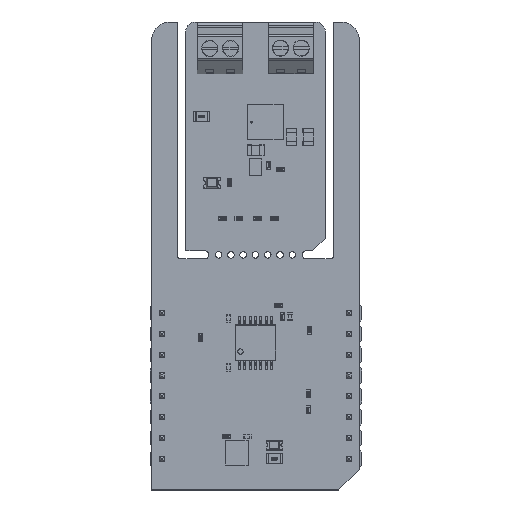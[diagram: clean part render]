
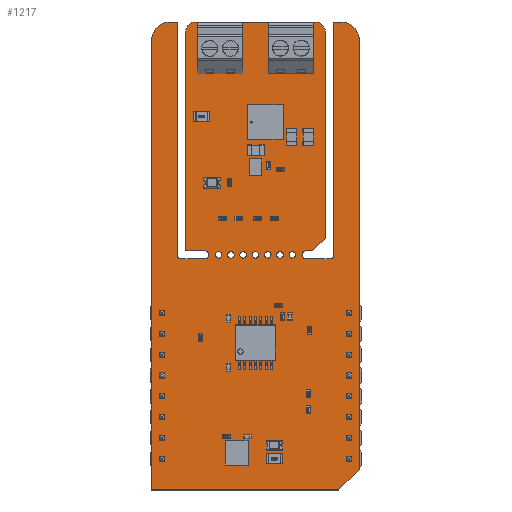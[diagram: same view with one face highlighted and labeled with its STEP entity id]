
A CAD part, top view. The second image highlights one B-rep face of the part: STEP entity #1217.
In plain terms, the highlighted planar face has unit normal (0, 0, 1).
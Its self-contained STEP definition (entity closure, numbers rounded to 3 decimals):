
#180 = VERTEX_POINT('',#181);
#181 = CARTESIAN_POINT('',(1.905,24.8,1.59));
#187 = EDGE_CURVE('',#180,#188,#190,.T.);
#188 = VERTEX_POINT('',#189);
#189 = CARTESIAN_POINT('',(2.305,24.4,1.59));
#190 = CIRCLE('',#191,0.399);
#191 = AXIS2_PLACEMENT_3D('',#192,#193,#194);
#192 = CARTESIAN_POINT('',(2.304,24.799,1.59));
#193 = DIRECTION('',(0.,0.,1.));
#194 = DIRECTION('',(-1.,0.001,0.));
#220 = EDGE_CURVE('',#188,#221,#223,.T.);
#221 = VERTEX_POINT('',#222);
#222 = CARTESIAN_POINT('',(5.23,24.4,1.59));
#223 = LINE('',#224,#225);
#224 = CARTESIAN_POINT('',(2.305,24.4,1.59));
#225 = VECTOR('',#226,1.);
#226 = DIRECTION('',(1.,0.,0.));
#251 = EDGE_CURVE('',#221,#252,#254,.T.);
#252 = VERTEX_POINT('',#253);
#253 = CARTESIAN_POINT('',(5.23,25.4,1.59));
#254 = CIRCLE('',#255,0.5);
#255 = AXIS2_PLACEMENT_3D('',#256,#257,#258);
#256 = CARTESIAN_POINT('',(5.23,24.9,1.59));
#257 = DIRECTION('',(0.,0.,1.));
#258 = DIRECTION('',(-0.,-1.,0.));
#284 = EDGE_CURVE('',#252,#285,#287,.T.);
#285 = VERTEX_POINT('',#286);
#286 = CARTESIAN_POINT('',(2.921,25.4,1.59));
#287 = LINE('',#288,#289);
#288 = CARTESIAN_POINT('',(5.23,25.4,1.59));
#289 = VECTOR('',#290,1.);
#290 = DIRECTION('',(-1.,0.,0.));
#315 = EDGE_CURVE('',#285,#316,#318,.T.);
#316 = VERTEX_POINT('',#317);
#317 = CARTESIAN_POINT('',(2.921,52.197,1.59));
#318 = LINE('',#319,#320);
#319 = CARTESIAN_POINT('',(2.921,25.4,1.59));
#320 = VECTOR('',#321,1.);
#321 = DIRECTION('',(0.,1.,0.));
#346 = EDGE_CURVE('',#316,#347,#349,.T.);
#347 = VERTEX_POINT('',#348);
#348 = CARTESIAN_POINT('',(4.064,53.34,1.59));
#349 = CIRCLE('',#350,1.144);
#350 = AXIS2_PLACEMENT_3D('',#351,#352,#353);
#351 = CARTESIAN_POINT('',(4.065,52.196,1.59));
#352 = DIRECTION('',(0.,0.,-1.));
#353 = DIRECTION('',(-1.,0.001,0.));
#379 = EDGE_CURVE('',#347,#380,#382,.T.);
#380 = VERTEX_POINT('',#381);
#381 = CARTESIAN_POINT('',(18.796,53.34,1.59));
#382 = LINE('',#383,#384);
#383 = CARTESIAN_POINT('',(4.064,53.34,1.59));
#384 = VECTOR('',#385,1.);
#385 = DIRECTION('',(1.,0.,0.));
#410 = EDGE_CURVE('',#380,#411,#413,.T.);
#411 = VERTEX_POINT('',#412);
#412 = CARTESIAN_POINT('',(19.939,52.197,1.59));
#413 = CIRCLE('',#414,1.144);
#414 = AXIS2_PLACEMENT_3D('',#415,#416,#417);
#415 = CARTESIAN_POINT('',(18.795,52.196,1.59));
#416 = DIRECTION('',(0.,0.,-1.));
#417 = DIRECTION('',(0.001,1.,0.));
#443 = EDGE_CURVE('',#411,#444,#446,.T.);
#444 = VERTEX_POINT('',#445);
#445 = CARTESIAN_POINT('',(19.939,26.924,1.59));
#446 = LINE('',#447,#448);
#447 = CARTESIAN_POINT('',(19.939,52.197,1.59));
#448 = VECTOR('',#449,1.);
#449 = DIRECTION('',(0.,-1.,0.));
#474 = EDGE_CURVE('',#444,#475,#477,.T.);
#475 = VERTEX_POINT('',#476);
#476 = CARTESIAN_POINT('',(18.415,25.4,1.59));
#477 = LINE('',#478,#479);
#478 = CARTESIAN_POINT('',(19.939,26.924,1.59));
#479 = VECTOR('',#480,1.);
#480 = DIRECTION('',(-0.707,-0.707,0.));
#505 = EDGE_CURVE('',#475,#506,#508,.T.);
#506 = VERTEX_POINT('',#507);
#507 = CARTESIAN_POINT('',(17.63,25.4,1.59));
#508 = LINE('',#509,#510);
#509 = CARTESIAN_POINT('',(18.415,25.4,1.59));
#510 = VECTOR('',#511,1.);
#511 = DIRECTION('',(-1.,0.,0.));
#536 = EDGE_CURVE('',#506,#537,#539,.T.);
#537 = VERTEX_POINT('',#538);
#538 = CARTESIAN_POINT('',(17.63,24.4,1.59));
#539 = CIRCLE('',#540,0.5);
#540 = AXIS2_PLACEMENT_3D('',#541,#542,#543);
#541 = CARTESIAN_POINT('',(17.63,24.9,1.59));
#542 = DIRECTION('',(0.,-0.,1.));
#543 = DIRECTION('',(0.,1.,0.));
#569 = EDGE_CURVE('',#537,#570,#572,.T.);
#570 = VERTEX_POINT('',#571);
#571 = CARTESIAN_POINT('',(20.555,24.4,1.59));
#572 = LINE('',#573,#574);
#573 = CARTESIAN_POINT('',(17.63,24.4,1.59));
#574 = VECTOR('',#575,1.);
#575 = DIRECTION('',(1.,0.,0.));
#600 = EDGE_CURVE('',#570,#601,#603,.T.);
#601 = VERTEX_POINT('',#602);
#602 = CARTESIAN_POINT('',(20.955,24.8,1.59));
#603 = CIRCLE('',#604,0.399);
#604 = AXIS2_PLACEMENT_3D('',#605,#606,#607);
#605 = CARTESIAN_POINT('',(20.556,24.799,1.59));
#606 = DIRECTION('',(0.,0.,1.));
#607 = DIRECTION('',(-0.001,-1.,0.));
#633 = EDGE_CURVE('',#601,#634,#636,.T.);
#634 = VERTEX_POINT('',#635);
#635 = CARTESIAN_POINT('',(20.955,53.34,1.59));
#636 = LINE('',#637,#638);
#637 = CARTESIAN_POINT('',(20.955,24.8,1.59));
#638 = VECTOR('',#639,1.);
#639 = DIRECTION('',(0.,1.,0.));
#664 = EDGE_CURVE('',#634,#665,#667,.T.);
#665 = VERTEX_POINT('',#666);
#666 = CARTESIAN_POINT('',(21.844,53.34,1.59));
#667 = LINE('',#668,#669);
#668 = CARTESIAN_POINT('',(20.955,53.34,1.59));
#669 = VECTOR('',#670,1.);
#670 = DIRECTION('',(1.,0.,0.));
#695 = EDGE_CURVE('',#665,#696,#698,.T.);
#696 = VERTEX_POINT('',#697);
#697 = CARTESIAN_POINT('',(24.13,51.054,1.59));
#698 = CIRCLE('',#699,2.288);
#699 = AXIS2_PLACEMENT_3D('',#700,#701,#702);
#700 = CARTESIAN_POINT('',(21.842,51.052,1.59));
#701 = DIRECTION('',(0.,0.,-1.));
#702 = DIRECTION('',(0.001,1.,0.));
#728 = EDGE_CURVE('',#696,#729,#731,.T.);
#729 = VERTEX_POINT('',#730);
#730 = CARTESIAN_POINT('',(24.13,-1.27,1.59));
#731 = LINE('',#732,#733);
#732 = CARTESIAN_POINT('',(24.13,51.054,1.59));
#733 = VECTOR('',#734,1.);
#734 = DIRECTION('',(0.,-1.,0.));
#759 = EDGE_CURVE('',#729,#760,#762,.T.);
#760 = VERTEX_POINT('',#761);
#761 = CARTESIAN_POINT('',(21.59,-3.81,1.59));
#762 = LINE('',#763,#764);
#763 = CARTESIAN_POINT('',(24.13,-1.27,1.59));
#764 = VECTOR('',#765,1.);
#765 = DIRECTION('',(-0.707,-0.707,0.));
#790 = EDGE_CURVE('',#760,#791,#793,.T.);
#791 = VERTEX_POINT('',#792);
#792 = CARTESIAN_POINT('',(-1.27,-3.81,1.59));
#793 = LINE('',#794,#795);
#794 = CARTESIAN_POINT('',(21.59,-3.81,1.59));
#795 = VECTOR('',#796,1.);
#796 = DIRECTION('',(-1.,0.,0.));
#821 = EDGE_CURVE('',#791,#822,#824,.T.);
#822 = VERTEX_POINT('',#823);
#823 = CARTESIAN_POINT('',(-1.27,51.054,1.59));
#824 = LINE('',#825,#826);
#825 = CARTESIAN_POINT('',(-1.27,-3.81,1.59));
#826 = VECTOR('',#827,1.);
#827 = DIRECTION('',(0.,1.,0.));
#852 = EDGE_CURVE('',#822,#853,#855,.T.);
#853 = VERTEX_POINT('',#854);
#854 = CARTESIAN_POINT('',(1.016,53.34,1.59));
#855 = CIRCLE('',#856,2.288);
#856 = AXIS2_PLACEMENT_3D('',#857,#858,#859);
#857 = CARTESIAN_POINT('',(1.018,51.052,1.59));
#858 = DIRECTION('',(0.,0.,-1.));
#859 = DIRECTION('',(-1.,0.001,0.));
#885 = EDGE_CURVE('',#853,#886,#888,.T.);
#886 = VERTEX_POINT('',#887);
#887 = CARTESIAN_POINT('',(1.905,53.34,1.59));
#888 = LINE('',#889,#890);
#889 = CARTESIAN_POINT('',(1.016,53.34,1.59));
#890 = VECTOR('',#891,1.);
#891 = DIRECTION('',(1.,0.,0.));
#916 = EDGE_CURVE('',#886,#180,#917,.T.);
#917 = LINE('',#918,#919);
#918 = CARTESIAN_POINT('',(1.905,53.34,1.59));
#919 = VECTOR('',#920,1.);
#920 = DIRECTION('',(0.,-1.,0.));
#940 = VERTEX_POINT('',#941);
#941 = CARTESIAN_POINT('',(7.33,24.9,1.59));
#947 = EDGE_CURVE('',#940,#940,#948,.T.);
#948 = CIRCLE('',#949,0.4);
#949 = AXIS2_PLACEMENT_3D('',#950,#951,#952);
#950 = CARTESIAN_POINT('',(6.93,24.9,1.59));
#951 = DIRECTION('',(0.,0.,1.));
#952 = DIRECTION('',(1.,0.,-0.));
#973 = VERTEX_POINT('',#974);
#974 = CARTESIAN_POINT('',(8.83,24.9,1.59));
#980 = EDGE_CURVE('',#973,#973,#981,.T.);
#981 = CIRCLE('',#982,0.4);
#982 = AXIS2_PLACEMENT_3D('',#983,#984,#985);
#983 = CARTESIAN_POINT('',(8.43,24.9,1.59));
#984 = DIRECTION('',(0.,0.,1.));
#985 = DIRECTION('',(1.,0.,-0.));
#1006 = VERTEX_POINT('',#1007);
#1007 = CARTESIAN_POINT('',(10.33,24.9,1.59));
#1013 = EDGE_CURVE('',#1006,#1006,#1014,.T.);
#1014 = CIRCLE('',#1015,0.4);
#1015 = AXIS2_PLACEMENT_3D('',#1016,#1017,#1018);
#1016 = CARTESIAN_POINT('',(9.93,24.9,1.59));
#1017 = DIRECTION('',(0.,0.,1.));
#1018 = DIRECTION('',(1.,0.,-0.));
#1039 = VERTEX_POINT('',#1040);
#1040 = CARTESIAN_POINT('',(14.83,24.9,1.59));
#1046 = EDGE_CURVE('',#1039,#1039,#1047,.T.);
#1047 = CIRCLE('',#1048,0.4);
#1048 = AXIS2_PLACEMENT_3D('',#1049,#1050,#1051);
#1049 = CARTESIAN_POINT('',(14.43,24.9,1.59));
#1050 = DIRECTION('',(0.,0.,1.));
#1051 = DIRECTION('',(1.,0.,-0.));
#1072 = VERTEX_POINT('',#1073);
#1073 = CARTESIAN_POINT('',(16.33,24.9,1.59));
#1079 = EDGE_CURVE('',#1072,#1072,#1080,.T.);
#1080 = CIRCLE('',#1081,0.4);
#1081 = AXIS2_PLACEMENT_3D('',#1082,#1083,#1084);
#1082 = CARTESIAN_POINT('',(15.93,24.9,1.59));
#1083 = DIRECTION('',(0.,0.,1.));
#1084 = DIRECTION('',(1.,0.,-0.));
#1105 = VERTEX_POINT('',#1106);
#1106 = CARTESIAN_POINT('',(11.83,24.9,1.59));
#1112 = EDGE_CURVE('',#1105,#1105,#1113,.T.);
#1113 = CIRCLE('',#1114,0.4);
#1114 = AXIS2_PLACEMENT_3D('',#1115,#1116,#1117);
#1115 = CARTESIAN_POINT('',(11.43,24.9,1.59));
#1116 = DIRECTION('',(0.,0.,1.));
#1117 = DIRECTION('',(1.,0.,-0.));
#1138 = VERTEX_POINT('',#1139);
#1139 = CARTESIAN_POINT('',(13.33,24.9,1.59));
#1145 = EDGE_CURVE('',#1138,#1138,#1146,.T.);
#1146 = CIRCLE('',#1147,0.4);
#1147 = AXIS2_PLACEMENT_3D('',#1148,#1149,#1150);
#1148 = CARTESIAN_POINT('',(12.93,24.9,1.59));
#1149 = DIRECTION('',(0.,0.,1.));
#1150 = DIRECTION('',(1.,0.,-0.));
#1217 = ADVANCED_FACE('',(#1218,#1244,#1247,#1250,#1253,#1256,#1259,
    #1262),#1265,.F.);
#1218 = FACE_BOUND('',#1219,.F.);
#1219 = EDGE_LOOP('',(#1220,#1221,#1222,#1223,#1224,#1225,#1226,#1227,
    #1228,#1229,#1230,#1231,#1232,#1233,#1234,#1235,#1236,#1237,#1238,
    #1239,#1240,#1241,#1242,#1243));
#1220 = ORIENTED_EDGE('',*,*,#187,.T.);
#1221 = ORIENTED_EDGE('',*,*,#220,.T.);
#1222 = ORIENTED_EDGE('',*,*,#251,.T.);
#1223 = ORIENTED_EDGE('',*,*,#284,.T.);
#1224 = ORIENTED_EDGE('',*,*,#315,.T.);
#1225 = ORIENTED_EDGE('',*,*,#346,.T.);
#1226 = ORIENTED_EDGE('',*,*,#379,.T.);
#1227 = ORIENTED_EDGE('',*,*,#410,.T.);
#1228 = ORIENTED_EDGE('',*,*,#443,.T.);
#1229 = ORIENTED_EDGE('',*,*,#474,.T.);
#1230 = ORIENTED_EDGE('',*,*,#505,.T.);
#1231 = ORIENTED_EDGE('',*,*,#536,.T.);
#1232 = ORIENTED_EDGE('',*,*,#569,.T.);
#1233 = ORIENTED_EDGE('',*,*,#600,.T.);
#1234 = ORIENTED_EDGE('',*,*,#633,.T.);
#1235 = ORIENTED_EDGE('',*,*,#664,.T.);
#1236 = ORIENTED_EDGE('',*,*,#695,.T.);
#1237 = ORIENTED_EDGE('',*,*,#728,.T.);
#1238 = ORIENTED_EDGE('',*,*,#759,.T.);
#1239 = ORIENTED_EDGE('',*,*,#790,.T.);
#1240 = ORIENTED_EDGE('',*,*,#821,.T.);
#1241 = ORIENTED_EDGE('',*,*,#852,.T.);
#1242 = ORIENTED_EDGE('',*,*,#885,.T.);
#1243 = ORIENTED_EDGE('',*,*,#916,.T.);
#1244 = FACE_BOUND('',#1245,.F.);
#1245 = EDGE_LOOP('',(#1246));
#1246 = ORIENTED_EDGE('',*,*,#947,.T.);
#1247 = FACE_BOUND('',#1248,.F.);
#1248 = EDGE_LOOP('',(#1249));
#1249 = ORIENTED_EDGE('',*,*,#980,.T.);
#1250 = FACE_BOUND('',#1251,.F.);
#1251 = EDGE_LOOP('',(#1252));
#1252 = ORIENTED_EDGE('',*,*,#1013,.T.);
#1253 = FACE_BOUND('',#1254,.F.);
#1254 = EDGE_LOOP('',(#1255));
#1255 = ORIENTED_EDGE('',*,*,#1046,.T.);
#1256 = FACE_BOUND('',#1257,.F.);
#1257 = EDGE_LOOP('',(#1258));
#1258 = ORIENTED_EDGE('',*,*,#1079,.T.);
#1259 = FACE_BOUND('',#1260,.F.);
#1260 = EDGE_LOOP('',(#1261));
#1261 = ORIENTED_EDGE('',*,*,#1112,.T.);
#1262 = FACE_BOUND('',#1263,.F.);
#1263 = EDGE_LOOP('',(#1264));
#1264 = ORIENTED_EDGE('',*,*,#1145,.T.);
#1265 = PLANE('',#1266);
#1266 = AXIS2_PLACEMENT_3D('',#1267,#1268,#1269);
#1267 = CARTESIAN_POINT('',(11.331,30.13,1.59));
#1268 = DIRECTION('',(-0.,-0.,-1.));
#1269 = DIRECTION('',(-1.,0.,0.));
